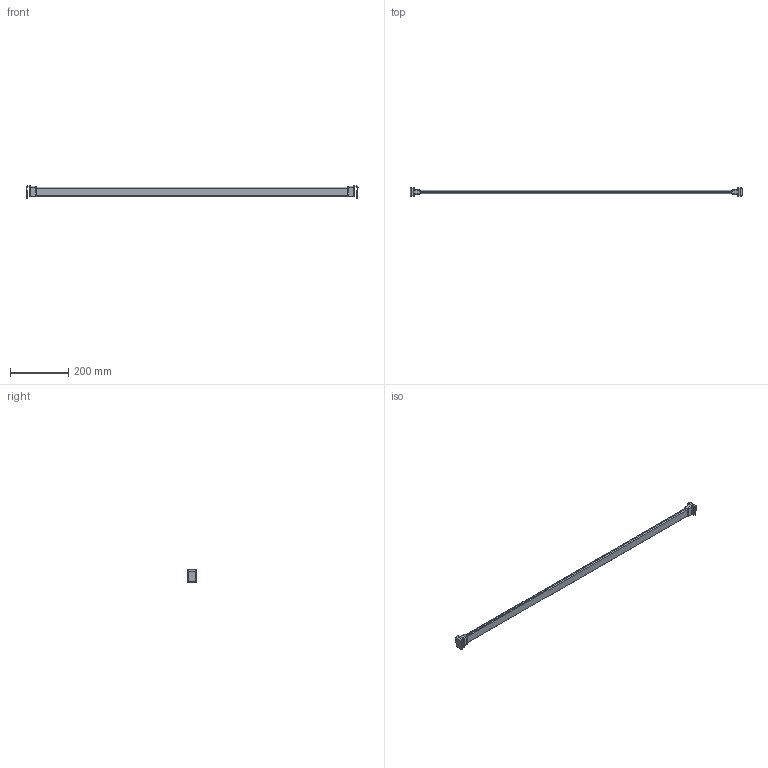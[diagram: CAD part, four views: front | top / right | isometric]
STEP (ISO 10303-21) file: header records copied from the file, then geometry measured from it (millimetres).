
FILE_DESCRIPTION (( 'STEP AP214' ), '1' );
FILE_NAME ('_Querreling_KAB-1200_KS-16_P602_Glashalter.step', '2010-08-26T14:59:42', ( 'grass' ), ( '' ), 'SwSTEP 2.0', 'SolidWorks 2009', '' );
FILE_SCHEMA (( 'AUTOMOTIVE_DESIGN' ));
Length unit declared in the file: millimetre
Products named in the file (1): _Querreling_KAB-1200_KS-16_P602_Glashalter
Bounding box: 1140.78 x 30 x 41.5 mm (x, y, z)
Volume: 367520.3 mm3; surface area: 97019.1 mm2
Topology: 1 solids, 1 shells, 124 faces, 300 edges, 176 vertices
Faces by surface type: cylinder 58, plane 34, torus 16, bspline 12, sphere 4
Entity records: 5090 total; most frequent: CARTESIAN_POINT 2269, ORIENTED_EDGE 592, DIRECTION 590, EDGE_CURVE 296, AXIS2_PLACEMENT_3D 225, VERTEX_POINT 176, VECTOR 140, LINE 140
